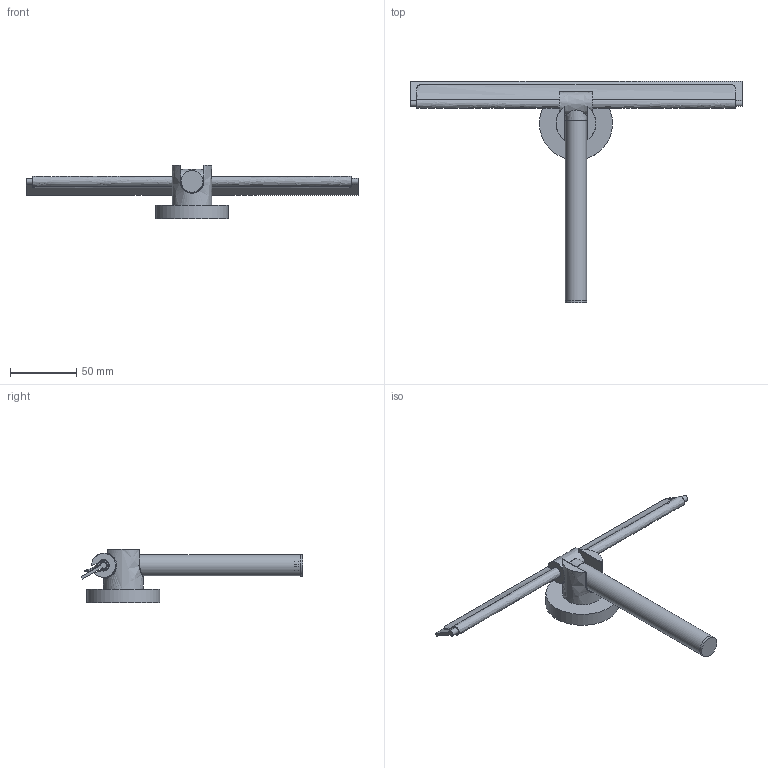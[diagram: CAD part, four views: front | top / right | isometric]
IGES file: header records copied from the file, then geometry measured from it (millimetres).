
Global section: file name: c17ef3da-274d-4cc4-94eb-8e232639c95a.zip; native system: unknown; preprocessor: unknown; author: unknown; organization: unknown; date: 20200109.123350; units: millimetre
Bounding box: 250 x 166.91 x 40 mm (x, y, z)
Volume: 51120.5 mm3; surface area: 60126 mm2
Topology: 10 solids, 10 shells, 124 faces, 342 edges, 238 vertices
Faces by surface type: bspline 124
